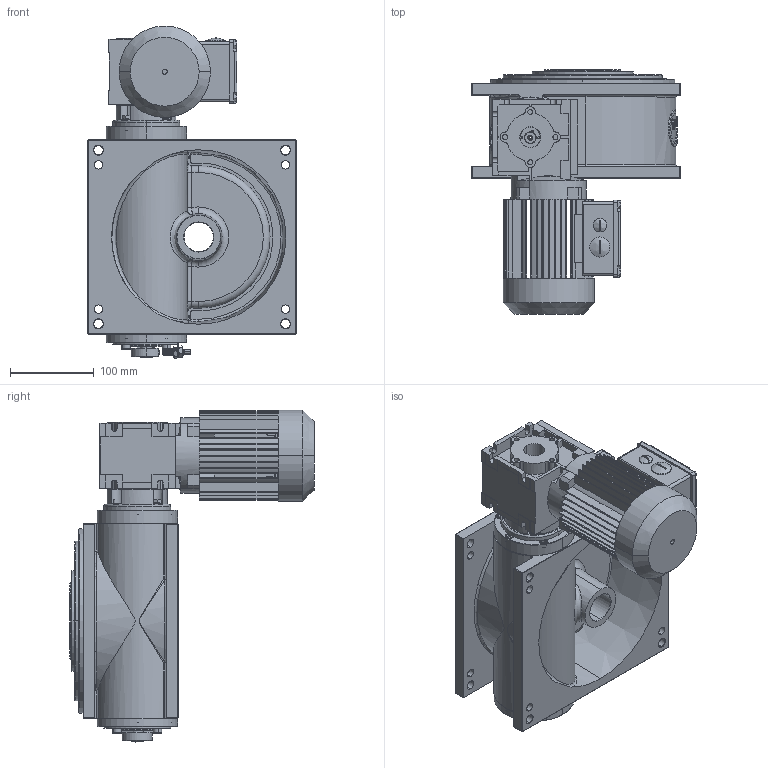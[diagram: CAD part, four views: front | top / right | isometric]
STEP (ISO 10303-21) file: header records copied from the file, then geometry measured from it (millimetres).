
FILE_DESCRIPTION (( 'STEP AP214' ), '1' );
FILE_NAME ('M190_SEW_WAF10DT56L4_D2.STEP', '2021-01-25T15:27:09', ( '' ), ( '' ), 'SwSTEP 2.0', 'SolidWorks 2020', '' );
FILE_SCHEMA (( 'AUTOMOTIVE_DESIGN' ));
Length unit declared in the file: millimetre
Products named in the file (1): M190_SEW_WAF10DT56L4_D2
Bounding box: 248 x 291.6 x 395.75 mm (x, y, z)
Surface area: 564300.1 mm2 (no closed solid volume)
Topology: 0 solids, 53 shells, 1390 faces, 4555 edges, 3050 vertices
Faces by surface type: plane 644, cylinder 454, cone 138, bspline 79, torus 63, sphere 12
Entity records: 73387 total; most frequent: CARTESIAN_POINT 18835, DIRECTION 8274, ORIENTED_EDGE 7598, EDGE_CURVE 4532, VERTEX_POINT 3050, AXIS2_PLACEMENT_3D 2851, LINE 2572, VECTOR 2572
